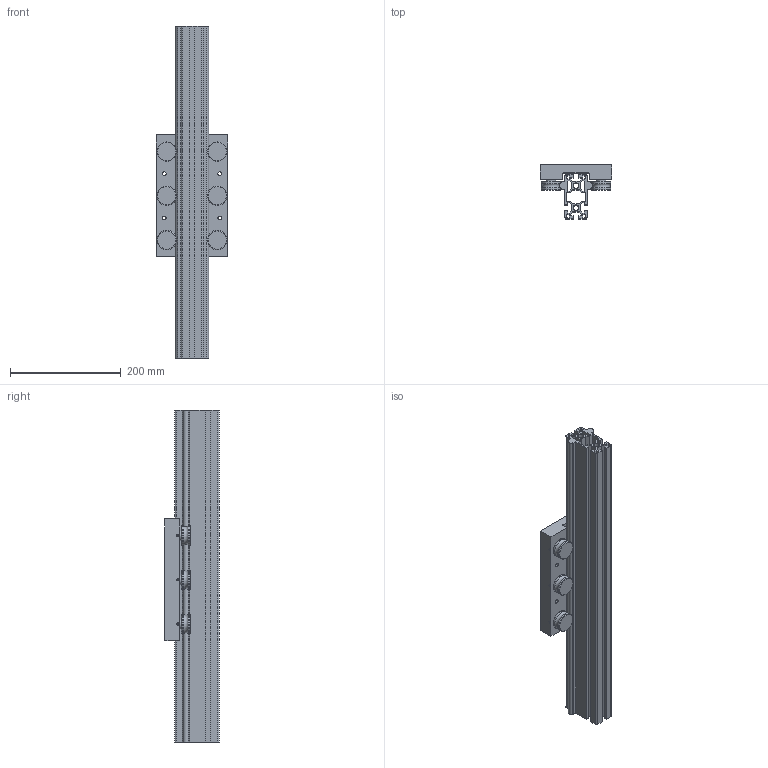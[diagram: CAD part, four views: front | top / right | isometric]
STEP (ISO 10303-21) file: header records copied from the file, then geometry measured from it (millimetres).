
FILE_DESCRIPTION (( 'STEP AP214' ), '1' );
FILE_NAME ('LSAP4080L.STEP', '2021-12-15T07:03:56', ( '' ), ( '' ), 'SwSTEP 2.0', 'SolidWorks 2019', '' );
FILE_SCHEMA (( 'AUTOMOTIVE_DESIGN' ));
Length unit declared in the file: millimetre
Products named in the file (3): LSAP4080Lレール; LSAP4080L僉儍儕僢僕; LSAP4080L
Assembly tree (2 placements, depth 2):
  LSAP4080L
    LSAP4080Lレール
    LSAP4080L僉儍儕僢僕
Bounding box: 130 x 98 x 600 mm (x, y, z)
Volume: 1533553 mm3; surface area: 600637.8 mm2
Topology: 14 solids, 14 shells, 413 faces, 960 edges, 608 vertices
Faces by surface type: plane 222, cylinder 95, cone 78, torus 18
Full cylindrical faces by diameter (mm): 3 x3, 4 x3, 6.8 x7, 10.5 x2, 12 x12, 13 x6, 18 x6, 21 x6, 26 x6, 35 x12
Entity records: 15150 total; most frequent: CARTESIAN_POINT 2703, DIRECTION 1839, ORIENTED_EDGE 1734, EDGE_CURVE 867, AXIS2_PLACEMENT_3D 698, VERTEX_POINT 602, EDGE_LOOP 589, FACE_OUTER_BOUND 494
